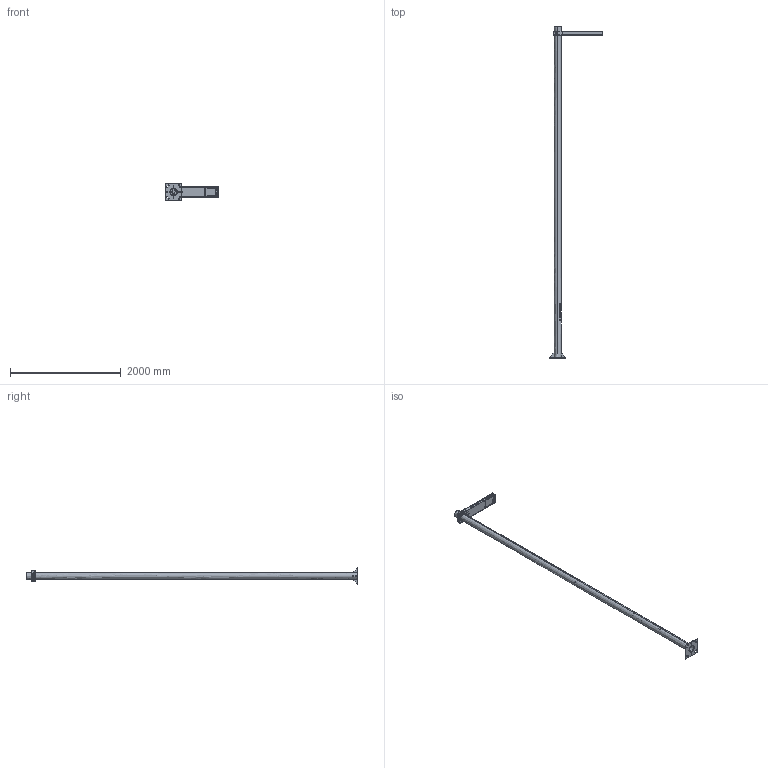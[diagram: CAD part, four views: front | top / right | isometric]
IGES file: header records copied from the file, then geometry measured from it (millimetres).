
Start section: SolidWorks IGES file using analytic representation for surfaces
Global section: file name: C:\SANTACOLE_PDM\Proyectos Catálogo\PROD-P08-042 -- RAMA LED\6_Técnico comercial\3D WEB\FAROLA RAMA LED 6.0M 1 LUMINARIA.IGS; native system: SolidWorks 2013; preprocessor: SolidWorks 2013; author: MarioV; date: 150330.182126; units: millimetre
Bounding box: 963 x 6000 x 300 mm (x, y, z)
Volume: 9997034 mm3; surface area: 6053679.9 mm2
Topology: 36 solids, 36 shells, 3601 faces, 9539 edges, 6002 vertices
Faces by surface type: plane 2278, revolution 790, bspline 533
